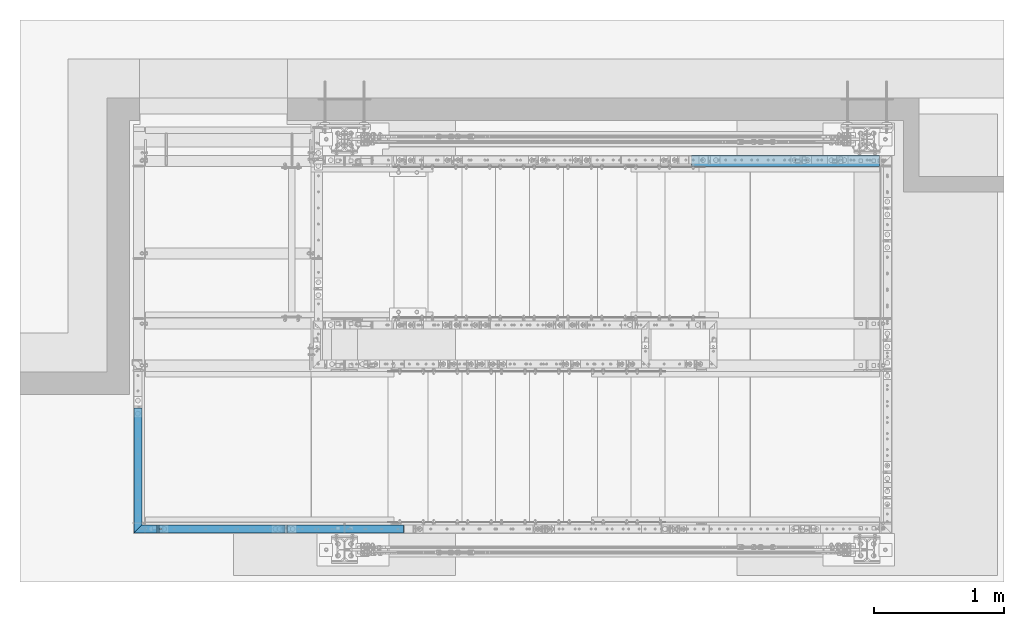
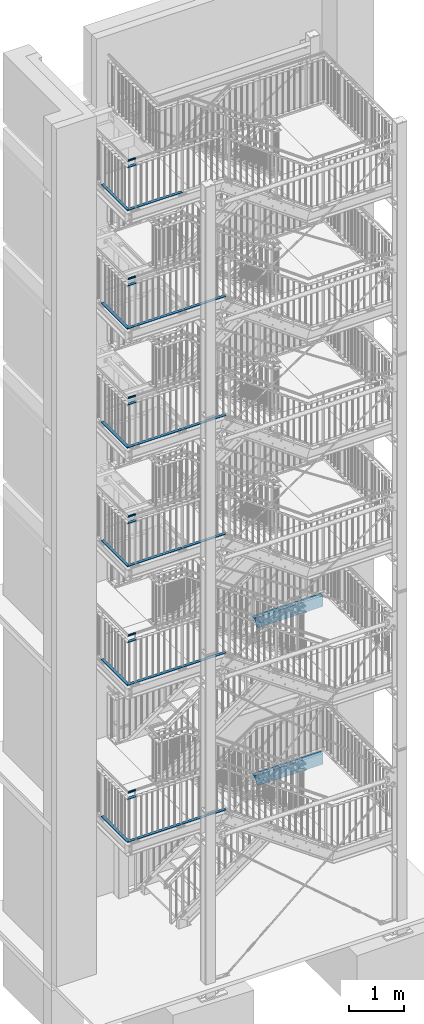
# One storey, part 131 of 825: 37 beams, 28 openings.
"""IFC2X3 building model written with IfcOpenShell, lengths in millimetres."""

from ifc_helpers import new_model, entity, si_unit, converted_unit, frame, frame_2d, origin, origin_with_axes, origin_2d, origin_2d_with_axis, place, context, project, spatial, polyline, rectangle, circle, hollow_circle, u_section, outline, extrude, clip, halfspace, material, element, save


model = new_model("IFC2X3")

# Units and contexts
model_context = context("Model", 3, precision=1e-09, world=origin_with_axes())
ifc_project = project(units=[si_unit("LENGTHUNIT", "METRE", prefix="MILLI"), si_unit("AREAUNIT", "SQUARE_METRE"), si_unit("VOLUMEUNIT", "CUBIC_METRE"), converted_unit("PLANEANGLEUNIT", "DEGREE", entity("IfcPlaneAngleMeasure", 0.01745329), si_unit("PLANEANGLEUNIT", "RADIAN"), dimensions=[0, 0, 0, 0, 0, 0, 0])], contexts=[model_context])

# Site, building, storey
site_placement = place(None, origin_with_axes())
site = spatial("IfcSite", under=ifc_project, at=site_placement, Name="Cnopf'sche Kinderklinik", CompositionType="ELEMENT")
building_placement = place(site_placement, origin_with_axes())
building = spatial("IfcBuilding", under=site, at=building_placement, Name="Struktur 1", CompositionType="ELEMENT")
storey_placement = place(building_placement, origin_with_axes())
storey = spatial("IfcBuildingStorey", under=building, at=storey_placement, Name="Default Storey", CompositionType="ELEMENT", Elevation=0.0)

# Beam
ifc_material = material(Name="S235JR")
beam_1_placement = place(None, frame((5312.074200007, 4526.736971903, 3912.0), z_axis=(1.0, 0.0, 0.0), x_axis=(0.0, 0.0, -1.0)))
element("IfcBeam", 1, at=beam_1_placement, inside=storey, material=ifc_material, Name="Railing_Kneerail_Landing#16", ObjectType="Railing_Kneerail_Landing#16", context=model_context, shape_type="SweptSolid", body=[
    extrude(rectangle(XDim=10.0, YDim=60.0, at=origin_2d()), origin(), (0.0, 0.0, -1.0), 926.708561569),
])

# Beam, openings
beam_2_placement = place(None, frame((4370.365638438, 4526.736971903, 3912.0), z_axis=(1.0, 0.0, 0.0), x_axis=(0.0, 0.0, -1.0)))
beam_2 = element("IfcBeam", 2, at=beam_2_placement, inside=storey, material=ifc_material, Name="Railing_Kneerail_Landing#17", ObjectType="Railing_Kneerail_Landing#17", context=model_context, shape_type="SweptSolid", body=[
    extrude(rectangle(XDim=10.0, YDim=60.0, at=origin_2d()), origin(), (0.0, 0.0, -1.0), 935.077117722),
])
opening_1_placement = place(beam_2_placement, frame((60.0, 0.0, -935.077117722), z_axis=(-1.0, 0.0, 0.0), x_axis=(0.0, 0.0, 1.0)))
element("IfcOpeningElement", 3, at=opening_1_placement, cuts=beam_2, ObjectType="Opening", context=model_context, shape_type="SweptSolid", body=[
    extrude(outline(polyline([(945.576117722, 30.001), (945.576117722, -30.001), (960.578117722, -30.001), (960.578117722, 30.001), (945.576117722, 30.001)])), origin(), (0.0, 0.0, 1.0), 120.0),
])
opening_2_placement = place(beam_2_placement, frame((5.5, 0.0, -923.077117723), z_axis=(-1.0, 0.0, 0.0), x_axis=(0.0, 0.0, 1.0)))
element("IfcOpeningElement", 4, at=opening_2_placement, cuts=beam_2, ObjectType="Opening", context=model_context, shape_type="SweptSolid", body=[
    extrude(circle(Radius=5.001, at=origin_2d_with_axis()), origin(), (0.0, 0.0, 1.0), 11.0),
])

# Beam
beam_3_placement = place(None, frame((3417.288520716, 4526.736971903, 3912.0), z_axis=(1.0, 0.0, 0.0), x_axis=(0.0, 0.0, -1.0)))
element("IfcBeam", 5, at=beam_3_placement, inside=storey, material=ifc_material, Name="Railing_Kneerail_Landing#18", ObjectType="Railing_Kneerail_Landing#18", context=model_context, shape_type="Clipping", body=[
    clip(extrude(rectangle(XDim=10.0, YDim=60.0, at=origin_2d()), origin(), (0.0, 0.0, -1.0), 188.586744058), halfspace(frame((3912.0, -3899.225894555, -4044.799598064), z_axis=(0.0, -0.707106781, 0.707106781), x_axis=(0.0, 0.707106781, 0.707106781)), True)),
])

# Beam, opening
beam_4_placement = place(None, frame((3271.713402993, 4483.725345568, 3912.0), z_axis=(0.0, -1.0, 0.0), x_axis=(0.0, 0.0, -1.0)))
beam_4 = element("IfcBeam", 6, at=beam_4_placement, inside=storey, material=ifc_material, Name="Railing_Kneerail_Landing#19", ObjectType="Railing_Kneerail_Landing#19", context=model_context, shape_type="Clipping", body=[
    clip(extrude(rectangle(XDim=10.0, YDim=60.0, at=origin_2d()), origin(), (0.0, 0.0, -1.0), 978.013626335), halfspace(frame((3912.0, -3899.225894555, 3856.212854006), z_axis=(0.0, -0.707106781, -0.707106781), x_axis=(0.0, -0.707106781, 0.707106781)), True)),
])
opening_3_placement = place(beam_4_placement, frame((60.0, 0.0, -978.013626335), z_axis=(-1.0, 0.0, 0.0), x_axis=(0.0, 1.0, 0.0)))
element("IfcOpeningElement", 7, at=opening_3_placement, cuts=beam_4, ObjectType="Opening", context=model_context, shape_type="SweptSolid", body=[
    extrude(outline(polyline([(30.001, 7.501), (-30.001, 7.501), (-30.001, -7.501), (30.001, -7.501), (30.001, 7.501)])), origin(), (0.0, 0.0, 1.0), 120.0),
])

# Beam
beam_5_placement = place(None, frame((5312.589928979, 4526.736971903, 7385.0), z_axis=(1.0, 0.0, 0.0), x_axis=(0.0, 0.0, -1.0)))
element("IfcBeam", 8, at=beam_5_placement, inside=storey, material=ifc_material, Name="Railing_Kneerail_Landing#18", ObjectType="Railing_Kneerail_Landing#18", context=model_context, shape_type="SweptSolid", body=[
    extrude(rectangle(XDim=10.0, YDim=60.0, at=origin_2d()), origin(), (0.0, 0.0, -1.0), 895.298240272),
])

# Beam, openings
beam_6_placement = place(None, frame((4402.291688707, 4526.736971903, 7385.0), z_axis=(1.0, 0.0, 0.0), x_axis=(0.0, 0.0, -1.0)))
beam_6 = element("IfcBeam", 9, at=beam_6_placement, inside=storey, material=ifc_material, Name="Railing_Kneerail_Landing#19", ObjectType="Railing_Kneerail_Landing#19", context=model_context, shape_type="SweptSolid", body=[
    extrude(rectangle(XDim=10.0, YDim=60.0, at=origin_2d()), origin(), (0.0, 0.0, -1.0), 967.000142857),
])
opening_4_placement = place(beam_6_placement, frame((60.0, 0.0, -967.000142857), z_axis=(-1.0, 0.0, 0.0), x_axis=(0.0, 0.0, 1.0)))
element("IfcOpeningElement", 10, at=opening_4_placement, cuts=beam_6, ObjectType="Opening", context=model_context, shape_type="SweptSolid", body=[
    extrude(outline(polyline([(977.499142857, 30.001), (977.499142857, -30.001), (992.501142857, -30.001), (992.501142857, 30.001), (977.499142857, 30.001)])), origin(), (0.0, 0.0, 1.0), 120.0),
])
opening_5_placement = place(beam_6_placement, frame((5.5, 0.0, -955.000142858), z_axis=(-1.0, 0.0, 0.0), x_axis=(0.0, 0.0, 1.0)))
element("IfcOpeningElement", 11, at=opening_5_placement, cuts=beam_6, ObjectType="Opening", context=model_context, shape_type="SweptSolid", body=[
    extrude(circle(Radius=5.001, at=origin_2d_with_axis()), origin(), (0.0, 0.0, 1.0), 11.0),
])

# Beam
beam_7_placement = place(None, frame((3417.29154585, 4526.736971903, 7385.0), z_axis=(1.0, 0.0, 0.0), x_axis=(0.0, 0.0, -1.0)))
element("IfcBeam", 12, at=beam_7_placement, inside=storey, material=ifc_material, Name="Railing_Kneerail_Landing#20", ObjectType="Railing_Kneerail_Landing#20", context=model_context, shape_type="Clipping", body=[
    clip(extrude(rectangle(XDim=10.0, YDim=60.0, at=origin_2d()), origin(), (0.0, 0.0, -1.0), 188.589769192), halfspace(frame((7385.0, -3899.225894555, -4044.802623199), z_axis=(0.0, -0.707106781, 0.707106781), x_axis=(0.0, 0.707106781, 0.707106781)), True)),
])

# Beam, opening
beam_8_placement = place(None, frame((3271.713402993, 4483.725345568, 7385.0), z_axis=(0.0, -1.0, 0.0), x_axis=(0.0, 0.0, -1.0)))
beam_8 = element("IfcBeam", 13, at=beam_8_placement, inside=storey, material=ifc_material, Name="Railing_Kneerail_Landing#21", ObjectType="Railing_Kneerail_Landing#21", context=model_context, shape_type="Clipping", body=[
    clip(extrude(rectangle(XDim=10.0, YDim=60.0, at=origin_2d()), origin(), (0.0, 0.0, -1.0), 978.013626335), halfspace(frame((7385.0, -3899.225894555, 3856.212854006), z_axis=(0.0, -0.707106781, -0.707106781), x_axis=(0.0, -0.707106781, 0.707106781)), True)),
])
opening_6_placement = place(beam_8_placement, frame((60.0, 0.0, -978.013626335), z_axis=(-1.0, 0.0, 0.0), x_axis=(0.0, 1.0, 0.0)))
element("IfcOpeningElement", 14, at=opening_6_placement, cuts=beam_8, ObjectType="Opening", context=model_context, shape_type="SweptSolid", body=[
    extrude(outline(polyline([(30.001, 7.501), (-30.001, 7.501), (-30.001, -7.501), (30.001, -7.501), (30.001, 7.501)])), origin(), (0.0, 0.0, 1.0), 120.0),
])

# Beam, openings
beam_9_placement = place(None, frame((7260.434507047, 7329.036971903, 5554.8947367), z_axis=(1.0, 0.0, 0.0), x_axis=(0.0, 1.0, 0.0)))
beam_9 = element("IfcBeam", 15, at=beam_9_placement, inside=storey, material=ifc_material, Name="Stringer", ObjectType="Stringer", context=model_context, shape_type="Clipping", body=[
    clip(clip(extrude(u_section(Depth=240.0, FlangeWidth=85.0, WebThickness=9.5, FlangeThickness=13.0, FilletRadius=13.0, EdgeRadius=6.5, FlangeSlope=4.574, at=frame_2d((20.2, 0.0))), origin(), (0.0, 0.0, 1.0), 1958.582666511), halfspace(frame((-7329.036971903, -5554.8947367, 1701.277895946), z_axis=(0.0, 0.0, -1.0), x_axis=(-1.0, 0.0, 0.0)), True)), halfspace(frame((-7329.036971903, -2876.228700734, 1207.214407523), z_axis=(0.0, 0.301609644, 0.953431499), x_axis=(1.0, 0.0, 0.0)), True)),
])
opening_7_placement = place(beam_9_placement, frame((27.7, 120.5, 1424.278467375), z_axis=(0.0, 1.0, 0.0), x_axis=(-1.0, 0.0, 0.0)))
element("IfcOpeningElement", 16, at=opening_7_placement, cuts=beam_9, ObjectType="Opening", context=model_context, shape_type="SweptSolid", body=[
    extrude(circle(Radius=7.001, at=frame_2d((0.0, 7.001), x_axis=(1.0, 0.0))), origin(), (0.0, 0.0, -1.0), 14.0),
])
opening_8_placement = place(beam_9_placement, frame((27.7, 120.5, 1324.278467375), z_axis=(0.0, 1.0, 0.0), x_axis=(-1.0, 0.0, 0.0)))
element("IfcOpeningElement", 17, at=opening_8_placement, cuts=beam_9, ObjectType="Opening", context=model_context, shape_type="SweptSolid", body=[
    extrude(circle(Radius=7.001, at=frame_2d((0.0, 7.001), x_axis=(1.0, 0.0))), origin(), (0.0, 0.0, -1.0), 14.0),
])
opening_9_placement = place(beam_9_placement, frame((27.7, 120.5, 439.278324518), z_axis=(0.0, 1.0, 0.0), x_axis=(-1.0, 0.0, 0.0)))
element("IfcOpeningElement", 18, at=opening_9_placement, cuts=beam_9, ObjectType="Opening", context=model_context, shape_type="SweptSolid", body=[
    extrude(circle(Radius=7.001, at=frame_2d((0.0, 7.001), x_axis=(1.0, 0.0))), origin(), (0.0, 0.0, -1.0), 14.0),
])
opening_10_placement = place(beam_9_placement, frame((27.7, 120.5, 339.278324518), z_axis=(0.0, 1.0, 0.0), x_axis=(-1.0, 0.0, 0.0)))
element("IfcOpeningElement", 19, at=opening_10_placement, cuts=beam_9, ObjectType="Opening", context=model_context, shape_type="SweptSolid", body=[
    extrude(circle(Radius=7.001, at=frame_2d((0.0, 7.001), x_axis=(1.0, 0.0))), origin(), (0.0, 0.0, -1.0), 14.0),
])
opening_11_placement = place(beam_9_placement, frame((22.7, -120.5, 1656.278895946), z_axis=(0.0, 1.0, 0.0), x_axis=(1.0, 0.0, 0.0)))
element("IfcOpeningElement", 20, at=opening_11_placement, cuts=beam_9, ObjectType="Opening", context=model_context, shape_type="SweptSolid", body=[
    extrude(circle(Radius=7.001, at=origin_2d_with_axis()), origin(), (0.0, 0.0, 1.0), 14.0),
])
opening_12_placement = place(beam_9_placement, frame((22.7, -120.5, 1556.278895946), z_axis=(0.0, 1.0, 0.0), x_axis=(1.0, 0.0, 0.0)))
element("IfcOpeningElement", 21, at=opening_12_placement, cuts=beam_9, ObjectType="Opening", context=model_context, shape_type="SweptSolid", body=[
    extrude(circle(Radius=7.001, at=origin_2d_with_axis()), origin(), (0.0, 0.0, 1.0), 14.0),
])

# Beam
beam_10_placement = place(None, frame((5311.45240536, 4526.736971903, 10017.0), z_axis=(1.0, 0.0, 0.0), x_axis=(0.0, 0.0, -1.0)))
element("IfcBeam", 22, at=beam_10_placement, inside=storey, material=ifc_material, Name="Railing_Kneerail_Landing#18", ObjectType="Railing_Kneerail_Landing#18", context=model_context, shape_type="SweptSolid", body=[
    extrude(rectangle(XDim=10.0, YDim=60.0, at=origin_2d()), origin(), (0.0, 0.0, -1.0), 894.160716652),
])

# Beam, openings
beam_11_placement = place(None, frame((4402.291688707, 4526.736971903, 10017.0), z_axis=(1.0, 0.0, 0.0), x_axis=(0.0, 0.0, -1.0)))
beam_11 = element("IfcBeam", 23, at=beam_11_placement, inside=storey, material=ifc_material, Name="Railing_Kneerail_Landing#19", ObjectType="Railing_Kneerail_Landing#19", context=model_context, shape_type="SweptSolid", body=[
    extrude(rectangle(XDim=10.0, YDim=60.0, at=origin_2d()), origin(), (0.0, 0.0, -1.0), 967.000142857),
])
opening_13_placement = place(beam_11_placement, frame((60.0, 0.0, -967.000142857), z_axis=(-1.0, 0.0, 0.0), x_axis=(0.0, 0.0, 1.0)))
element("IfcOpeningElement", 24, at=opening_13_placement, cuts=beam_11, ObjectType="Opening", context=model_context, shape_type="SweptSolid", body=[
    extrude(outline(polyline([(977.499142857, 30.001), (977.499142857, -30.001), (992.501142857, -30.001), (992.501142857, 30.001), (977.499142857, 30.001)])), origin(), (0.0, 0.0, 1.0), 120.0),
])
opening_14_placement = place(beam_11_placement, frame((5.5, 0.0, -955.000142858), z_axis=(-1.0, 0.0, 0.0), x_axis=(0.0, 0.0, 1.0)))
element("IfcOpeningElement", 25, at=opening_14_placement, cuts=beam_11, ObjectType="Opening", context=model_context, shape_type="SweptSolid", body=[
    extrude(circle(Radius=5.001, at=origin_2d_with_axis()), origin(), (0.0, 0.0, 1.0), 11.0),
])

# Beam
beam_12_placement = place(None, frame((3417.29154585, 4526.736971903, 10017.0), z_axis=(1.0, 0.0, 0.0), x_axis=(0.0, 0.0, -1.0)))
element("IfcBeam", 26, at=beam_12_placement, inside=storey, material=ifc_material, Name="Railing_Kneerail_Landing#20", ObjectType="Railing_Kneerail_Landing#20", context=model_context, shape_type="Clipping", body=[
    clip(extrude(rectangle(XDim=10.0, YDim=60.0, at=origin_2d()), origin(), (0.0, 0.0, -1.0), 188.589769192), halfspace(frame((10017.0, -3899.225894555, -4044.802623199), z_axis=(0.0, -0.707106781, 0.707106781), x_axis=(0.0, 0.707106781, 0.707106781)), True)),
])

# Beam, opening
beam_13_placement = place(None, frame((3271.713402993, 4483.725345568, 10017.0), z_axis=(0.0, -1.0, 0.0), x_axis=(0.0, 0.0, -1.0)))
beam_13 = element("IfcBeam", 27, at=beam_13_placement, inside=storey, material=ifc_material, Name="Railing_Kneerail_Landing#21", ObjectType="Railing_Kneerail_Landing#21", context=model_context, shape_type="Clipping", body=[
    clip(extrude(rectangle(XDim=10.0, YDim=60.0, at=origin_2d()), origin(), (0.0, 0.0, -1.0), 978.013626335), halfspace(frame((10017.0, -3899.225894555, 3856.212854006), z_axis=(0.0, -0.707106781, -0.707106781), x_axis=(0.0, -0.707106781, 0.707106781)), True)),
])
opening_15_placement = place(beam_13_placement, frame((60.0, 0.0, -978.013626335), z_axis=(-1.0, 0.0, 0.0), x_axis=(0.0, 1.0, 0.0)))
element("IfcOpeningElement", 28, at=opening_15_placement, cuts=beam_13, ObjectType="Opening", context=model_context, shape_type="SweptSolid", body=[
    extrude(outline(polyline([(30.001, 7.501), (-30.001, 7.501), (-30.001, -7.501), (30.001, -7.501), (30.001, 7.501)])), origin(), (0.0, 0.0, 1.0), 120.0),
])

# Beam
beam_14_placement = place(None, frame((5311.527784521, 4526.736971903, 12644.0), z_axis=(1.0, 0.0, 0.0), x_axis=(0.0, 0.0, -1.0)))
element("IfcBeam", 29, at=beam_14_placement, inside=storey, material=ifc_material, Name="Railing_Kneerail_Landing#18", ObjectType="Railing_Kneerail_Landing#18", context=model_context, shape_type="SweptSolid", body=[
    extrude(rectangle(XDim=10.0, YDim=60.0, at=origin_2d()), origin(), (0.0, 0.0, -1.0), 894.236095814),
])

# Beam, openings
beam_15_placement = place(None, frame((4402.291688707, 4526.736971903, 12644.0), z_axis=(1.0, 0.0, 0.0), x_axis=(0.0, 0.0, -1.0)))
beam_15 = element("IfcBeam", 30, at=beam_15_placement, inside=storey, material=ifc_material, Name="Railing_Kneerail_Landing#19", ObjectType="Railing_Kneerail_Landing#19", context=model_context, shape_type="SweptSolid", body=[
    extrude(rectangle(XDim=10.0, YDim=60.0, at=origin_2d()), origin(), (0.0, 0.0, -1.0), 967.000142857),
])
opening_16_placement = place(beam_15_placement, frame((60.0, 0.0, -967.000142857), z_axis=(-1.0, 0.0, 0.0), x_axis=(0.0, 0.0, 1.0)))
element("IfcOpeningElement", 31, at=opening_16_placement, cuts=beam_15, ObjectType="Opening", context=model_context, shape_type="SweptSolid", body=[
    extrude(outline(polyline([(977.499142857, 30.001), (977.499142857, -30.001), (992.501142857, -30.001), (992.501142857, 30.001), (977.499142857, 30.001)])), origin(), (0.0, 0.0, 1.0), 120.0),
])
opening_17_placement = place(beam_15_placement, frame((5.5, 0.0, -955.000142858), z_axis=(-1.0, 0.0, 0.0), x_axis=(0.0, 0.0, 1.0)))
element("IfcOpeningElement", 32, at=opening_17_placement, cuts=beam_15, ObjectType="Opening", context=model_context, shape_type="SweptSolid", body=[
    extrude(circle(Radius=5.001, at=origin_2d_with_axis()), origin(), (0.0, 0.0, 1.0), 11.0),
])

# Beam
beam_16_placement = place(None, frame((3417.29154585, 4526.736971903, 12644.0), z_axis=(1.0, 0.0, 0.0), x_axis=(0.0, 0.0, -1.0)))
element("IfcBeam", 33, at=beam_16_placement, inside=storey, material=ifc_material, Name="Railing_Kneerail_Landing#20", ObjectType="Railing_Kneerail_Landing#20", context=model_context, shape_type="Clipping", body=[
    clip(extrude(rectangle(XDim=10.0, YDim=60.0, at=origin_2d()), origin(), (0.0, 0.0, -1.0), 188.589769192), halfspace(frame((12644.0, -3899.225894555, -4044.802623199), z_axis=(0.0, -0.707106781, 0.707106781), x_axis=(0.0, 0.707106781, 0.707106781)), True)),
])

# Beam, opening
beam_17_placement = place(None, frame((3271.713402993, 4483.725345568, 12644.0), z_axis=(0.0, -1.0, 0.0), x_axis=(0.0, 0.0, -1.0)))
beam_17 = element("IfcBeam", 34, at=beam_17_placement, inside=storey, material=ifc_material, Name="Railing_Kneerail_Landing#21", ObjectType="Railing_Kneerail_Landing#21", context=model_context, shape_type="Clipping", body=[
    clip(extrude(rectangle(XDim=10.0, YDim=60.0, at=origin_2d()), origin(), (0.0, 0.0, -1.0), 978.013626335), halfspace(frame((12644.0, -3899.225894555, 3856.212854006), z_axis=(0.0, -0.707106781, -0.707106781), x_axis=(0.0, -0.707106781, 0.707106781)), True)),
])
opening_18_placement = place(beam_17_placement, frame((60.0, 0.0, -978.013626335), z_axis=(-1.0, 0.0, 0.0), x_axis=(0.0, 1.0, 0.0)))
element("IfcOpeningElement", 35, at=opening_18_placement, cuts=beam_17, ObjectType="Opening", context=model_context, shape_type="SweptSolid", body=[
    extrude(outline(polyline([(30.001, 7.501), (-30.001, 7.501), (-30.001, -7.501), (30.001, -7.501), (30.001, 7.501)])), origin(), (0.0, 0.0, 1.0), 120.0),
])

# Beam
beam_18_placement = place(None, frame((5311.407355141, 4526.736971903, 15279.0), z_axis=(1.0, 0.0, 0.0), x_axis=(0.0, 0.0, -1.0)))
element("IfcBeam", 36, at=beam_18_placement, inside=storey, material=ifc_material, Name="Railing_Kneerail_Landing#18", ObjectType="Railing_Kneerail_Landing#18", context=model_context, shape_type="SweptSolid", body=[
    extrude(rectangle(XDim=10.0, YDim=60.0, at=origin_2d()), origin(), (0.0, 0.0, -1.0), 894.115666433),
])

# Beam, openings
beam_19_placement = place(None, frame((4402.291688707, 4526.736971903, 15279.0), z_axis=(1.0, 0.0, 0.0), x_axis=(0.0, 0.0, -1.0)))
beam_19 = element("IfcBeam", 37, at=beam_19_placement, inside=storey, material=ifc_material, Name="Railing_Kneerail_Landing#19", ObjectType="Railing_Kneerail_Landing#19", context=model_context, shape_type="SweptSolid", body=[
    extrude(rectangle(XDim=10.0, YDim=60.0, at=origin_2d()), origin(), (0.0, 0.0, -1.0), 967.000142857),
])
opening_19_placement = place(beam_19_placement, frame((60.0, 0.0, -967.000142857), z_axis=(-1.0, 0.0, 0.0), x_axis=(0.0, 0.0, 1.0)))
element("IfcOpeningElement", 38, at=opening_19_placement, cuts=beam_19, ObjectType="Opening", context=model_context, shape_type="SweptSolid", body=[
    extrude(outline(polyline([(977.499142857, 30.001), (977.499142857, -30.001), (992.501142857, -30.001), (992.501142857, 30.001), (977.499142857, 30.001)])), origin(), (0.0, 0.0, 1.0), 120.0),
])
opening_20_placement = place(beam_19_placement, frame((5.5, 0.0, -955.000142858), z_axis=(-1.0, 0.0, 0.0), x_axis=(0.0, 0.0, 1.0)))
element("IfcOpeningElement", 39, at=opening_20_placement, cuts=beam_19, ObjectType="Opening", context=model_context, shape_type="SweptSolid", body=[
    extrude(circle(Radius=5.001, at=origin_2d_with_axis()), origin(), (0.0, 0.0, 1.0), 11.0),
])

# Beam
beam_20_placement = place(None, frame((3417.29154585, 4526.736971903, 15279.0), z_axis=(1.0, 0.0, 0.0), x_axis=(0.0, 0.0, -1.0)))
element("IfcBeam", 40, at=beam_20_placement, inside=storey, material=ifc_material, Name="Railing_Kneerail_Landing#20", ObjectType="Railing_Kneerail_Landing#20", context=model_context, shape_type="Clipping", body=[
    clip(extrude(rectangle(XDim=10.0, YDim=60.0, at=origin_2d()), origin(), (0.0, 0.0, -1.0), 188.589769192), halfspace(frame((15279.0, -3899.225894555, -4044.802623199), z_axis=(0.0, -0.707106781, 0.707106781), x_axis=(0.0, 0.707106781, 0.707106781)), True)),
])

# Beam, opening
beam_21_placement = place(None, frame((3271.713402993, 4483.725345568, 15279.0), z_axis=(0.0, -1.0, 0.0), x_axis=(0.0, 0.0, -1.0)))
beam_21 = element("IfcBeam", 41, at=beam_21_placement, inside=storey, material=ifc_material, Name="Railing_Kneerail_Landing#21", ObjectType="Railing_Kneerail_Landing#21", context=model_context, shape_type="Clipping", body=[
    clip(extrude(rectangle(XDim=10.0, YDim=60.0, at=origin_2d()), origin(), (0.0, 0.0, -1.0), 978.013626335), halfspace(frame((15279.0, -3899.225894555, 3856.212854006), z_axis=(0.0, -0.707106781, -0.707106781), x_axis=(0.0, -0.707106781, 0.707106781)), True)),
])
opening_21_placement = place(beam_21_placement, frame((60.0, 0.0, -978.013626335), z_axis=(-1.0, 0.0, 0.0), x_axis=(0.0, 1.0, 0.0)))
element("IfcOpeningElement", 42, at=opening_21_placement, cuts=beam_21, ObjectType="Opening", context=model_context, shape_type="SweptSolid", body=[
    extrude(outline(polyline([(30.001, 7.501), (-30.001, 7.501), (-30.001, -7.501), (30.001, -7.501), (30.001, 7.501)])), origin(), (0.0, 0.0, 1.0), 120.0),
])

# Beam, openings
beam_22_placement = place(None, frame((7260.901415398, 7329.036971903, 2061.0526312), z_axis=(1.0, 0.0, 0.0), x_axis=(0.0, 1.0, 0.0)))
beam_22 = element("IfcBeam", 43, at=beam_22_placement, inside=storey, material=ifc_material, Name="Stringer", ObjectType="Stringer", context=model_context, shape_type="Clipping", body=[
    clip(clip(extrude(u_section(Depth=240.0, FlangeWidth=85.0, WebThickness=9.5, FlangeThickness=13.0, FilletRadius=13.0, EdgeRadius=6.5, FlangeSlope=4.574, at=frame_2d((20.2, 0.0))), origin(), (0.0, 0.0, 1.0), 1958.11575816), halfspace(frame((-7329.036971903, -2061.0526312, 1700.810987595), z_axis=(0.0, 0.0, -1.0), x_axis=(-1.0, 0.0, 0.0)), True)), halfspace(frame((-7329.036971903, 321.948595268, 195.084170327), z_axis=(0.0, 0.304437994, 0.952532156), x_axis=(1.0, 0.0, 0.0)), True)),
])
opening_22_placement = place(beam_22_placement, frame((27.7, 120.5, 1143.041810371), z_axis=(0.0, 1.0, 0.0), x_axis=(-1.0, 0.0, 0.0)))
element("IfcOpeningElement", 44, at=opening_22_placement, cuts=beam_22, ObjectType="Opening", context=model_context, shape_type="SweptSolid", body=[
    extrude(circle(Radius=7.001, at=frame_2d((0.0, 7.001), x_axis=(1.0, 0.0))), origin(), (0.0, 0.0, -1.0), 14.0),
])
opening_23_placement = place(beam_22_placement, frame((27.7, 120.5, 1043.041810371), z_axis=(0.0, 1.0, 0.0), x_axis=(-1.0, 0.0, 0.0)))
element("IfcOpeningElement", 45, at=opening_23_placement, cuts=beam_22, ObjectType="Opening", context=model_context, shape_type="SweptSolid", body=[
    extrude(circle(Radius=7.001, at=frame_2d((0.0, 7.001), x_axis=(1.0, 0.0))), origin(), (0.0, 0.0, -1.0), 14.0),
])
opening_24_placement = place(beam_22_placement, frame((22.7, -120.5, 1555.811987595), z_axis=(0.0, 1.0, 0.0), x_axis=(1.0, 0.0, 0.0)))
element("IfcOpeningElement", 46, at=opening_24_placement, cuts=beam_22, ObjectType="Opening", context=model_context, shape_type="SweptSolid", body=[
    extrude(circle(Radius=7.001, at=origin_2d_with_axis()), origin(), (0.0, 0.0, 1.0), 14.0),
])
opening_25_placement = place(beam_22_placement, frame((22.7, -120.5, 1655.811987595), z_axis=(0.0, 1.0, 0.0), x_axis=(1.0, 0.0, 0.0)))
element("IfcOpeningElement", 47, at=opening_25_placement, cuts=beam_22, ObjectType="Opening", context=model_context, shape_type="SweptSolid", body=[
    extrude(circle(Radius=7.001, at=origin_2d_with_axis()), origin(), (0.0, 0.0, 1.0), 14.0),
])

beam_23_placement = place(None, frame((4402.291688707, 4526.736971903, 17899.0), z_axis=(1.0, 0.0, 0.0), x_axis=(0.0, 0.0, -1.0)))
beam_23 = element("IfcBeam", 48, at=beam_23_placement, inside=storey, material=ifc_material, Name="Railing_Kneerail_Landing#19", ObjectType="Railing_Kneerail_Landing#19", context=model_context, shape_type="SweptSolid", body=[
    extrude(rectangle(XDim=10.0, YDim=60.0, at=origin_2d()), origin(), (0.0, 0.0, -1.0), 967.000142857),
])
opening_26_placement = place(beam_23_placement, frame((60.0, 0.0, -967.000142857), z_axis=(-1.0, 0.0, 0.0), x_axis=(0.0, 0.0, 1.0)))
element("IfcOpeningElement", 49, at=opening_26_placement, cuts=beam_23, ObjectType="Opening", context=model_context, shape_type="SweptSolid", body=[
    extrude(outline(polyline([(977.499142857, 30.001), (977.499142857, -30.001), (992.501142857, -30.001), (992.501142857, 30.001), (977.499142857, 30.001)])), origin(), (0.0, 0.0, 1.0), 120.0),
])
opening_27_placement = place(beam_23_placement, frame((5.5, 0.0, -955.000142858), z_axis=(-1.0, 0.0, 0.0), x_axis=(0.0, 0.0, 1.0)))
element("IfcOpeningElement", 50, at=opening_27_placement, cuts=beam_23, ObjectType="Opening", context=model_context, shape_type="SweptSolid", body=[
    extrude(circle(Radius=5.001, at=origin_2d_with_axis()), origin(), (0.0, 0.0, 1.0), 11.0),
])

# Beam
beam_24_placement = place(None, frame((3417.29154585, 4526.736971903, 17899.0), z_axis=(1.0, 0.0, 0.0), x_axis=(0.0, 0.0, -1.0)))
element("IfcBeam", 51, at=beam_24_placement, inside=storey, material=ifc_material, Name="Railing_Kneerail_Landing#20", ObjectType="Railing_Kneerail_Landing#20", context=model_context, shape_type="Clipping", body=[
    clip(extrude(rectangle(XDim=10.0, YDim=60.0, at=origin_2d()), origin(), (0.0, 0.0, -1.0), 188.589769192), halfspace(frame((17899.0, -3899.225894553, -4044.802623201), z_axis=(0.0, -0.707106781, 0.707106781), x_axis=(0.0, 0.707106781, 0.707106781)), True)),
])

# Beam, opening
beam_25_placement = place(None, frame((3271.713402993, 4483.725345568, 17899.0), z_axis=(0.0, -1.0, 0.0), x_axis=(0.0, 0.0, -1.0)))
beam_25 = element("IfcBeam", 52, at=beam_25_placement, inside=storey, material=ifc_material, Name="Railing_Kneerail_Landing#21", ObjectType="Railing_Kneerail_Landing#21", context=model_context, shape_type="Clipping", body=[
    clip(extrude(rectangle(XDim=10.0, YDim=60.0, at=origin_2d()), origin(), (0.0, 0.0, -1.0), 978.013626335), halfspace(frame((17898.999999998, -3899.225894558, 3856.212854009), z_axis=(0.0, -0.707106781, -0.707106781), x_axis=(0.0, -0.707106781, 0.707106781)), True)),
])
opening_28_placement = place(beam_25_placement, frame((60.0, 0.0, -978.013626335), z_axis=(-1.0, 0.0, 0.0), x_axis=(0.0, 1.0, 0.0)))
element("IfcOpeningElement", 53, at=opening_28_placement, cuts=beam_25, ObjectType="Opening", context=model_context, shape_type="SweptSolid", body=[
    extrude(outline(polyline([(30.001, 7.501), (-30.001, 7.501), (-30.001, -7.501), (30.001, -7.501), (30.001, 7.501)])), origin(), (0.0, 0.0, 1.0), 120.0),
])

# Beams
beam_26_placement = place(None, frame((3432.29154585, 4526.736971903, 18847.8), z_axis=(1.0, 0.0, 0.0), x_axis=(0.0, 0.0, -1.0)))
element("IfcBeam", 54, at=beam_26_placement, inside=storey, material=ifc_material, Name="Railing_Kneerail_Landing#1018", ObjectType="Railing_Kneerail_Landing#1018", context=model_context, shape_type="Clipping", body=[
    clip(extrude(rectangle(XDim=10.0, YDim=60.0, at=origin_2d()), origin(), (0.0, 0.0, -1.0), 203.589769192), halfspace(frame((18847.8, -3899.225894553, -4059.802623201), z_axis=(0.0, -0.707106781, 0.707106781), x_axis=(0.0, 0.707106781, 0.707106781)), True)),
])
beam_27_placement = place(None, frame((3432.29154585, 4535.536971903, 18974.0), z_axis=(1.0, 0.0, 0.0), x_axis=(0.0, 0.0, -1.0)))
element("IfcBeam", 55, at=beam_27_placement, inside=storey, material=ifc_material, Name="Railing_Handrail_Landing#8", ObjectType="Railing_Handrail_Landing#8", context=model_context, shape_type="Clipping", body=[
    clip(extrude(hollow_circle(Radius=21.2, WallThickness=3.2, at=origin_2d()), origin(), (0.0, 0.0, -1.0), 194.178142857), halfspace(frame((18974.0, -3908.025894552, -4059.802623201), z_axis=(0.0, -0.707106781, 0.707106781), x_axis=(0.0, 0.707106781, 0.707106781)), True)),
])
beam_28_placement = place(None, frame((3432.29154585, 4526.736971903, 16227.8), z_axis=(1.0, 0.0, 0.0), x_axis=(0.0, 0.0, -1.0)))
element("IfcBeam", 56, at=beam_28_placement, inside=storey, material=ifc_material, Name="Railing_Kneerail_Landing#1020", ObjectType="Railing_Kneerail_Landing#1020", context=model_context, shape_type="Clipping", body=[
    clip(extrude(rectangle(XDim=10.0, YDim=60.0, at=origin_2d()), origin(), (0.0, 0.0, -1.0), 203.589769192), halfspace(frame((16227.8, -3899.225894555, -4059.802623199), z_axis=(0.0, -0.707106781, 0.707106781), x_axis=(0.0, 0.707106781, 0.707106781)), True)),
])
beam_29_placement = place(None, frame((3432.29154585, 4535.536971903, 16354.0), z_axis=(1.0, 0.0, 0.0), x_axis=(0.0, 0.0, -1.0)))
element("IfcBeam", 57, at=beam_29_placement, inside=storey, material=ifc_material, Name="Railing_Handrail_Landing#8", ObjectType="Railing_Handrail_Landing#8", context=model_context, shape_type="Clipping", body=[
    clip(extrude(hollow_circle(Radius=21.2, WallThickness=3.2, at=origin_2d()), origin(), (0.0, 0.0, -1.0), 194.178142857), halfspace(frame((16354.0, -3908.025894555, -4059.802623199), z_axis=(0.0, -0.707106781, 0.707106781), x_axis=(0.0, 0.707106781, 0.707106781)), True)),
])
beam_30_placement = place(None, frame((3432.29154585, 4526.736971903, 13592.8), z_axis=(1.0, 0.0, 0.0), x_axis=(0.0, 0.0, -1.0)))
element("IfcBeam", 58, at=beam_30_placement, inside=storey, material=ifc_material, Name="Railing_Kneerail_Landing#1018", ObjectType="Railing_Kneerail_Landing#1018", context=model_context, shape_type="Clipping", body=[
    clip(extrude(rectangle(XDim=10.0, YDim=60.0, at=origin_2d()), origin(), (0.0, 0.0, -1.0), 203.589769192), halfspace(frame((13592.8, -3899.225894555, -4059.802623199), z_axis=(0.0, -0.707106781, 0.707106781), x_axis=(0.0, 0.707106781, 0.707106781)), True)),
])
beam_31_placement = place(None, frame((3432.29154585, 4535.536971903, 13719.0), z_axis=(1.0, 0.0, 0.0), x_axis=(0.0, 0.0, -1.0)))
element("IfcBeam", 59, at=beam_31_placement, inside=storey, material=ifc_material, Name="Railing_Handrail_Landing#8", ObjectType="Railing_Handrail_Landing#8", context=model_context, shape_type="Clipping", body=[
    clip(extrude(hollow_circle(Radius=21.2, WallThickness=3.2, at=origin_2d()), origin(), (0.0, 0.0, -1.0), 194.178142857), halfspace(frame((13719.0, -3908.025894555, -4059.802623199), z_axis=(0.0, -0.707106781, 0.707106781), x_axis=(0.0, 0.707106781, 0.707106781)), True)),
])
beam_32_placement = place(None, frame((3432.29154585, 4526.736971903, 10965.8), z_axis=(1.0, 0.0, 0.0), x_axis=(0.0, 0.0, -1.0)))
element("IfcBeam", 60, at=beam_32_placement, inside=storey, material=ifc_material, Name="Railing_Kneerail_Landing#1020", ObjectType="Railing_Kneerail_Landing#1020", context=model_context, shape_type="Clipping", body=[
    clip(extrude(rectangle(XDim=10.0, YDim=60.0, at=origin_2d()), origin(), (0.0, 0.0, -1.0), 203.589769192), halfspace(frame((10965.8, -3899.225894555, -4059.802623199), z_axis=(0.0, -0.707106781, 0.707106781), x_axis=(0.0, 0.707106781, 0.707106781)), True)),
])
beam_33_placement = place(None, frame((3432.29154585, 4535.536971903, 11092.0), z_axis=(1.0, 0.0, 0.0), x_axis=(0.0, 0.0, -1.0)))
element("IfcBeam", 61, at=beam_33_placement, inside=storey, material=ifc_material, Name="Railing_Handrail_Landing#8", ObjectType="Railing_Handrail_Landing#8", context=model_context, shape_type="Clipping", body=[
    clip(extrude(hollow_circle(Radius=21.2, WallThickness=3.2, at=origin_2d()), origin(), (0.0, 0.0, -1.0), 194.178142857), halfspace(frame((11092.0, -3908.025894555, -4059.802623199), z_axis=(0.0, -0.707106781, 0.707106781), x_axis=(0.0, 0.707106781, 0.707106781)), True)),
])
beam_34_placement = place(None, frame((3432.29154585, 4526.736971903, 8333.8), z_axis=(1.0, 0.0, 0.0), x_axis=(0.0, 0.0, -1.0)))
element("IfcBeam", 62, at=beam_34_placement, inside=storey, material=ifc_material, Name="Railing_Kneerail_Landing#1018", ObjectType="Railing_Kneerail_Landing#1018", context=model_context, shape_type="Clipping", body=[
    clip(extrude(rectangle(XDim=10.0, YDim=60.0, at=origin_2d()), origin(), (0.0, 0.0, -1.0), 203.589769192), halfspace(frame((8333.8, -3899.225894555, -4059.802623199), z_axis=(0.0, -0.707106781, 0.707106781), x_axis=(0.0, 0.707106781, 0.707106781)), True)),
])
beam_35_placement = place(None, frame((3432.29154585, 4535.536971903, 8460.0), z_axis=(1.0, 0.0, 0.0), x_axis=(0.0, 0.0, -1.0)))
element("IfcBeam", 63, at=beam_35_placement, inside=storey, material=ifc_material, Name="Railing_Handrail_Landing#8", ObjectType="Railing_Handrail_Landing#8", context=model_context, shape_type="Clipping", body=[
    clip(extrude(hollow_circle(Radius=21.2, WallThickness=3.2, at=origin_2d()), origin(), (0.0, 0.0, -1.0), 194.178142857), halfspace(frame((8460.0, -3908.025894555, -4059.802623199), z_axis=(0.0, -0.707106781, 0.707106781), x_axis=(0.0, 0.707106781, 0.707106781)), True)),
])
beam_36_placement = place(None, frame((3432.288520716, 4526.736971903, 4860.8), z_axis=(1.0, 0.0, 0.0), x_axis=(0.0, 0.0, -1.0)))
element("IfcBeam", 64, at=beam_36_placement, inside=storey, material=ifc_material, Name="Railing_Kneerail_Landing#1018", ObjectType="Railing_Kneerail_Landing#1018", context=model_context, shape_type="Clipping", body=[
    clip(extrude(rectangle(XDim=10.0, YDim=60.0, at=origin_2d()), origin(), (0.0, 0.0, -1.0), 203.586744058), halfspace(frame((4860.8, -3899.225894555, -4059.799598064), z_axis=(0.0, -0.707106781, 0.707106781), x_axis=(0.0, 0.707106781, 0.707106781)), True)),
])
beam_37_placement = place(None, frame((3432.288520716, 4535.536971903, 4987.0), z_axis=(1.0, 0.0, 0.0), x_axis=(0.0, 0.0, -1.0)))
element("IfcBeam", 65, at=beam_37_placement, inside=storey, material=ifc_material, Name="Railing_Handrail_Landing#7", ObjectType="Railing_Handrail_Landing#7", context=model_context, shape_type="Clipping", body=[
    clip(extrude(hollow_circle(Radius=21.2, WallThickness=3.2, at=origin_2d()), origin(), (0.0, 0.0, -1.0), 194.175117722), halfspace(frame((4987.0, -3908.025894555, -4059.799598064), z_axis=(0.0, -0.707106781, 0.707106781), x_axis=(0.0, 0.707106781, 0.707106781)), True)),
])

save(model, "model.ifc")
